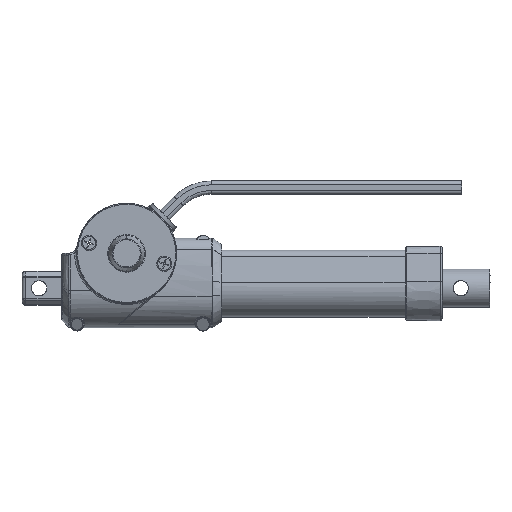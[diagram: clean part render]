
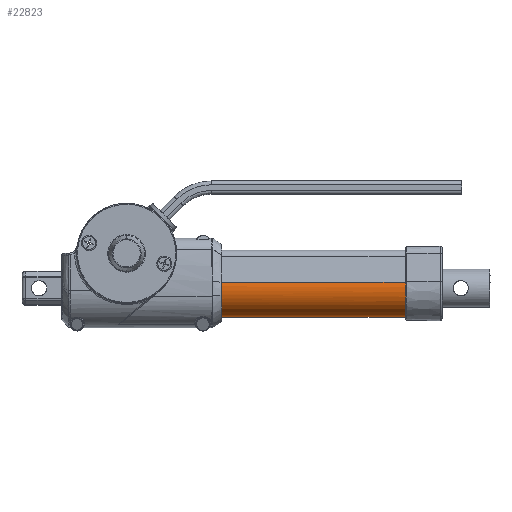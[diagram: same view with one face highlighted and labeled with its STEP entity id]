
A CAD part, front view. The second image highlights one B-rep face of the part: STEP entity #22823.
In plain terms, the highlighted cylindrical face has radius 15.15 mm (diameter 30.3 mm), a partial arc.
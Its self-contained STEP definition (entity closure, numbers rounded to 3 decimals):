
#1246 = DIRECTION ( 'NONE',  ( 0., 0., 1. ) ) ;
#1297 = EDGE_CURVE ( 'NONE', #28807, #15213, #17690, .T. ) ;
#1333 = FACE_OUTER_BOUND ( 'NONE', #29030, .T. ) ;
#1338 = DIRECTION ( 'NONE',  ( 1., 0., 0. ) ) ;
#1416 = CARTESIAN_POINT ( 'NONE',  ( 24.5, -12.311, -15.114 ) ) ;
#1616 = ORIENTED_EDGE ( 'NONE', *, *, #8152, .T. ) ;
#1822 = VECTOR ( 'NONE', #25427, 1000. ) ;
#2319 = EDGE_CURVE ( 'NONE', #18630, #21513, #31017, .T. ) ;
#2325 = ORIENTED_EDGE ( 'NONE', *, *, #1297, .T. ) ;
#2354 = DIRECTION ( 'NONE',  ( -1., 0., 0. ) ) ;
#2893 = LINE ( 'NONE', #30526, #31322 ) ;
#2928 = CARTESIAN_POINT ( 'NONE',  ( 13.5, 2.5, -18.3 ) ) ;
#3086 = CARTESIAN_POINT ( 'NONE',  ( 146.5, 2.5, -18.3 ) ) ;
#3908 = EDGE_CURVE ( 'NONE', #16298, #20985, #10848, .T. ) ;
#4191 = ORIENTED_EDGE ( 'NONE', *, *, #26497, .T. ) ;
#4203 = DIRECTION ( 'NONE',  ( 0., 0., 1. ) ) ;
#4265 = DIRECTION ( 'NONE',  ( 1., 0., 0. ) ) ;
#4402 = DIRECTION ( 'NONE',  ( -1., 0., 0. ) ) ;
#4409 = EDGE_CURVE ( 'NONE', #21704, #35340, #33947, .T. ) ;
#4760 = CARTESIAN_POINT ( 'NONE',  ( 149.16, 17.319, -15.15 ) ) ;
#5043 = EDGE_CURVE ( 'NONE', #22213, #28807, #32203, .T. ) ;
#5194 = AXIS2_PLACEMENT_3D ( 'NONE', #2928, #8887, #14130 ) ;
#5796 = ORIENTED_EDGE ( 'NONE', *, *, #16968, .T. ) ;
#6144 = DIRECTION ( 'NONE',  ( -1., 0., 0. ) ) ;
#7568 = VERTEX_POINT ( 'NONE', #22771 ) ;
#7707 = ORIENTED_EDGE ( 'NONE', *, *, #10847, .T. ) ;
#8152 = EDGE_CURVE ( 'NONE', #7568, #18630, #10044, .T. ) ;
#8169 = CARTESIAN_POINT ( 'NONE',  ( 27.6, -10.65, -25.823 ) ) ;
#8682 = ORIENTED_EDGE ( 'NONE', *, *, #5043, .T. ) ;
#8884 = ORIENTED_EDGE ( 'NONE', *, *, #2319, .T. ) ;
#8887 = DIRECTION ( 'NONE',  ( 1., 0., 0. ) ) ;
#9636 = CARTESIAN_POINT ( 'NONE',  ( 149.16, 2.5, -18.3 ) ) ;
#10044 = LINE ( 'NONE', #12393, #27555 ) ;
#10075 = CARTESIAN_POINT ( 'NONE',  ( 24.5, 17.319, -15.15 ) ) ;
#10309 = CARTESIAN_POINT ( 'NONE',  ( 149.16, -12.311, -15.114 ) ) ;
#10412 = CARTESIAN_POINT ( 'NONE',  ( 146.5, -12.311, -15.114 ) ) ;
#10847 = EDGE_CURVE ( 'NONE', #32898, #20413, #28206, .T. ) ;
#10848 = CIRCLE ( 'NONE', #31034, 15.15 ) ;
#11063 = ORIENTED_EDGE ( 'NONE', *, *, #27236, .T. ) ;
#12393 = CARTESIAN_POINT ( 'NONE',  ( 149.16, 17.319, -15.15 ) ) ;
#12507 = DIRECTION ( 'NONE',  ( -1., 0., 0. ) ) ;
#13103 = VECTOR ( 'NONE', #6144, 1000. ) ;
#13552 = LINE ( 'NONE', #10309, #14021 ) ;
#14021 = VECTOR ( 'NONE', #2354, 1000. ) ;
#14130 = DIRECTION ( 'NONE',  ( 0., 0., 1. ) ) ;
#14537 = LINE ( 'NONE', #4760, #22084 ) ;
#14735 = CARTESIAN_POINT ( 'NONE',  ( 27.6, -12.311, -15.114 ) ) ;
#15060 = CARTESIAN_POINT ( 'NONE',  ( 13.5, -12.311, -15.114 ) ) ;
#15213 = VERTEX_POINT ( 'NONE', #15060 ) ;
#15478 = CARTESIAN_POINT ( 'NONE',  ( 27.6, 2.5, -18.3 ) ) ;
#15483 = AXIS2_PLACEMENT_3D ( 'NONE', #26762, #12507, #4203 ) ;
#15597 = DIRECTION ( 'NONE',  ( 0., 0., 1. ) ) ;
#16298 = VERTEX_POINT ( 'NONE', #14735 ) ;
#16655 = AXIS2_PLACEMENT_3D ( 'NONE', #15478, #34818, #23417 ) ;
#16726 = CIRCLE ( 'NONE', #5194, 15.15 ) ;
#16968 = EDGE_CURVE ( 'NONE', #15213, #7568, #16726, .T. ) ;
#17690 = LINE ( 'NONE', #34318, #13103 ) ;
#18372 = AXIS2_PLACEMENT_3D ( 'NONE', #3086, #30894, #25102 ) ;
#18630 = VERTEX_POINT ( 'NONE', #10075 ) ;
#19694 = DIRECTION ( 'NONE',  ( 1., 0., 0. ) ) ;
#20022 = LINE ( 'NONE', #34105, #1822 ) ;
#20036 = ORIENTED_EDGE ( 'NONE', *, *, #26745, .T. ) ;
#20051 = AXIS2_PLACEMENT_3D ( 'NONE', #31889, #34958, #34608 ) ;
#20413 = VERTEX_POINT ( 'NONE', #26436 ) ;
#20572 = DIRECTION ( 'NONE',  ( 1., 0., 0. ) ) ;
#20985 = VERTEX_POINT ( 'NONE', #8169 ) ;
#21147 = EDGE_CURVE ( 'NONE', #20985, #22213, #20022, .T. ) ;
#21513 = VERTEX_POINT ( 'NONE', #30743 ) ;
#21704 = VERTEX_POINT ( 'NONE', #31443 ) ;
#22084 = VECTOR ( 'NONE', #1338, 1000. ) ;
#22213 = VERTEX_POINT ( 'NONE', #26326 ) ;
#22771 = CARTESIAN_POINT ( 'NONE',  ( 13.5, 17.319, -15.15 ) ) ;
#22823 = ADVANCED_FACE ( 'NONE', ( #1333 ), #31859, .T. ) ;
#23417 = DIRECTION ( 'NONE',  ( 0., 0., 1. ) ) ;
#25102 = DIRECTION ( 'NONE',  ( 0., 0., 1. ) ) ;
#25427 = DIRECTION ( 'NONE',  ( -1., 0., 0. ) ) ;
#26326 = CARTESIAN_POINT ( 'NONE',  ( 24.5, -10.65, -25.823 ) ) ;
#26436 = CARTESIAN_POINT ( 'NONE',  ( 27.6, 17.319, -15.15 ) ) ;
#26497 = EDGE_CURVE ( 'NONE', #35340, #16298, #13552, .T. ) ;
#26635 = CARTESIAN_POINT ( 'NONE',  ( 27.6, 15.65, -25.823 ) ) ;
#26745 = EDGE_CURVE ( 'NONE', #20413, #21704, #14537, .T. ) ;
#26762 = CARTESIAN_POINT ( 'NONE',  ( 24.5, 2.5, -18.3 ) ) ;
#27236 = EDGE_CURVE ( 'NONE', #21513, #32898, #2893, .T. ) ;
#27555 = VECTOR ( 'NONE', #4265, 1000. ) ;
#28206 = CIRCLE ( 'NONE', #16655, 15.15 ) ;
#28716 = ORIENTED_EDGE ( 'NONE', *, *, #3908, .T. ) ;
#28807 = VERTEX_POINT ( 'NONE', #1416 ) ;
#28890 = ORIENTED_EDGE ( 'NONE', *, *, #4409, .T. ) ;
#29030 = EDGE_LOOP ( 'NONE', ( #8884, #11063, #7707, #20036, #28890, #4191, #28716, #30170, #8682, #2325, #5796, #1616 ) ) ;
#30170 = ORIENTED_EDGE ( 'NONE', *, *, #21147, .T. ) ;
#30526 = CARTESIAN_POINT ( 'NONE',  ( 149.16, 15.65, -25.823 ) ) ;
#30743 = CARTESIAN_POINT ( 'NONE',  ( 24.5, 15.65, -25.823 ) ) ;
#30894 = DIRECTION ( 'NONE',  ( -1., 0., 0. ) ) ;
#31017 = CIRCLE ( 'NONE', #20051, 15.15 ) ;
#31034 = AXIS2_PLACEMENT_3D ( 'NONE', #31239, #20572, #1246 ) ;
#31239 = CARTESIAN_POINT ( 'NONE',  ( 27.6, 2.5, -18.3 ) ) ;
#31322 = VECTOR ( 'NONE', #19694, 1000. ) ;
#31443 = CARTESIAN_POINT ( 'NONE',  ( 146.5, 17.319, -15.15 ) ) ;
#31859 = CYLINDRICAL_SURFACE ( 'NONE', #35299, 15.15 ) ;
#31889 = CARTESIAN_POINT ( 'NONE',  ( 24.5, 2.5, -18.3 ) ) ;
#32203 = CIRCLE ( 'NONE', #15483, 15.15 ) ;
#32898 = VERTEX_POINT ( 'NONE', #26635 ) ;
#33947 = CIRCLE ( 'NONE', #18372, 15.15 ) ;
#34105 = CARTESIAN_POINT ( 'NONE',  ( 149.16, -10.65, -25.823 ) ) ;
#34318 = CARTESIAN_POINT ( 'NONE',  ( 149.16, -12.311, -15.114 ) ) ;
#34608 = DIRECTION ( 'NONE',  ( 0., 0., 1. ) ) ;
#34818 = DIRECTION ( 'NONE',  ( 1., 0., 0. ) ) ;
#34958 = DIRECTION ( 'NONE',  ( -1., 0., 0. ) ) ;
#35299 = AXIS2_PLACEMENT_3D ( 'NONE', #9636, #4402, #15597 ) ;
#35340 = VERTEX_POINT ( 'NONE', #10412 ) ;
